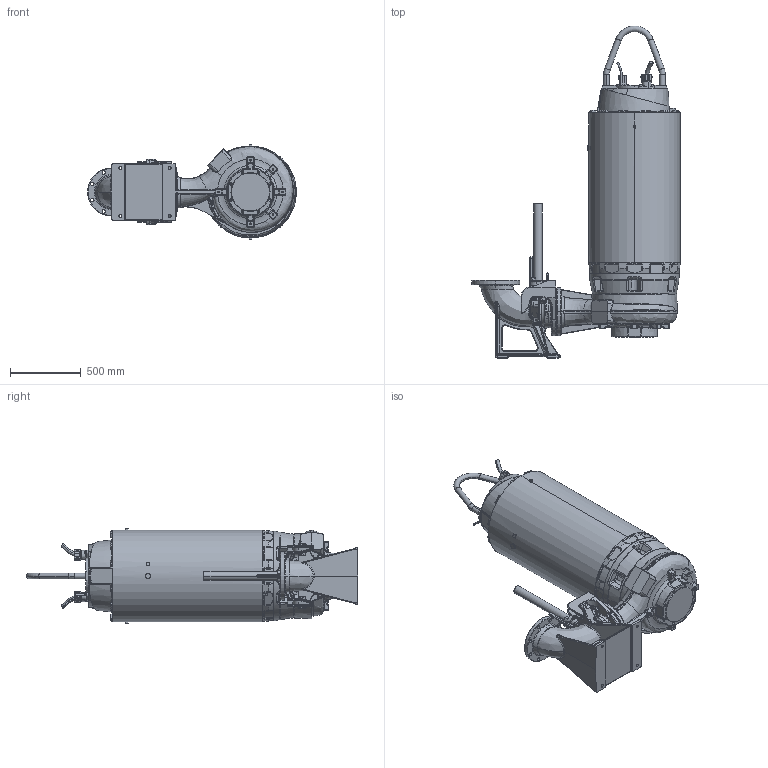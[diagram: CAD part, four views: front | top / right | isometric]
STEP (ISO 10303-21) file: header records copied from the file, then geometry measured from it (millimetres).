
FILE_DESCRIPTION (( 'STEP AP214' ), '1' );
FILE_NAME ('PE6_XFP200M-CH2_WET_A_NG2.STEP', '2017-03-17T07:40:12', ( '' ), ( '' ), 'SwSTEP 2.0', 'SolidWorks 2017', '' );
FILE_SCHEMA (( 'AUTOMOTIVE_DESIGN' ));
Length unit declared in the file: millimetre
Products named in the file (1): PE6_XFP200M-CH2_WET_A_NG2
Bounding box: 1472.69 x 2343.2 x 668 mm (x, y, z)
Volume: 561754028.9 mm3; surface area: 6992299.5 mm2
Topology: 4 solids, 23 shells, 4796 faces, 11712 edges, 6786 vertices
Faces by surface type: bspline 1455, cylinder 1107, plane 1100, torus 521, cone 406, sphere 207
Entity records: 291263 total; most frequent: CARTESIAN_POINT 138015, ORIENTED_EDGE 22848, DIRECTION 18796, EDGE_CURVE 11424, AXIS2_PLACEMENT_3D 7605, VERTEX_POINT 6778, EDGE_LOOP 5020, UNCERTAINTY_MEASURE_WITH_UNIT 4802
